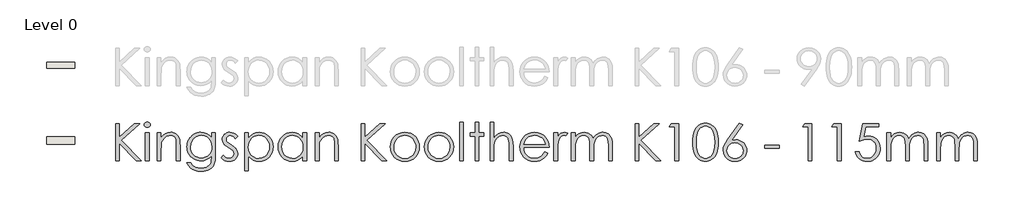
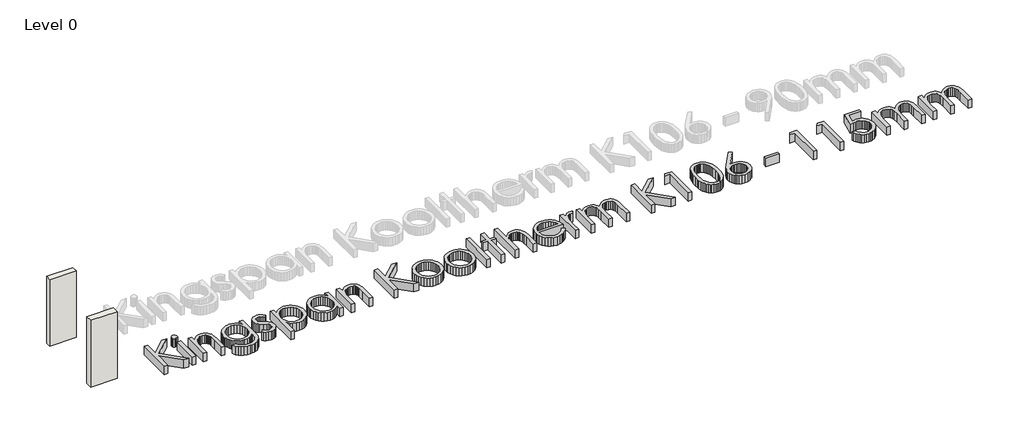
# One storey, part 1 of 2: 2 walls, 1 proxy.
"""IFC4 building model written with IfcOpenShell, lengths in millimetres."""

from ifc_helpers import new_model, si_unit, origin, origin_with_axes, place, context, project, spatial, polyline, outline, extrude, element, save

model = new_model("IFC4")

# Units and contexts
model_context = context("Model", 3, world=origin())
ifc_project = project(units=[si_unit("LENGTHUNIT", "METRE", prefix="MILLI")], contexts=[model_context])

# Site, building, storey
site = spatial("IfcSite", under=ifc_project)
building = spatial("IfcBuilding", under=site)
storey = spatial("IfcBuildingStorey", under=building, Name="Level 0", Elevation=0.0)

# Proxy
placement = place(None, origin())
element("IfcBuildingElementProxy", 1, Name="600mm KI_CenturyGothic", ObjectType="600mm KI_CenturyGothic", at=placement, inside=storey, context=model_context, shape_type="SweptSolid", body=[
    extrude(outline(polyline([(-3852.2663848, 4700.8965983), (-3792.944575, 4700.8965983), (-3792.944575, 4481.683973), (-3555.1938841, 4700.8965983), (-3471.6181051, 4700.8965983), (-3760.9664119, 4433.9484541), (-3441.9572002, 4107.6785001), (-3520.8984627, 4107.6785001), (-3792.944575, 4385.9039675), (-3792.944575, 4107.6785001), (-3852.2663848, 4107.6785001), (-3852.2663848, 4700.8965983)])), origin_with_axes(), (0.0, 0.0, 1.0), 150.0),
    extrude(outline(polyline([(-3348.1854852, 4730.5575033), (-3329.145347, 4727.2747208), (-3313.1176445, 4717.4263735), (-3302.226531, 4702.9821307), (-3298.5961598, 4685.911662), (-3302.226531, 4669.0729191), (-3313.1176445, 4654.7059183), (-3329.145347, 4644.857571), (-3348.1854852, 4641.5747885), (-3366.9938975, 4644.857571), (-3382.9443581, 4654.7059183), (-3393.8354717, 4669.0729191), (-3397.4658428, 4685.911662), (-3393.8354717, 4702.9821307), (-3382.9443581, 4717.4263735), (-3366.9938975, 4727.2747208), (-3348.1854852, 4730.5575033)])), origin_with_axes(), (0.0, 0.0, 1.0), 150.0),
    extrude(outline(polyline([(-3377.6919062, 4552.5920738), (-3318.3700964, 4552.5920738), (-3318.3700964, 4107.6785001), (-3377.6919062, 4107.6785001), (-3377.6919062, 4552.5920738)])), origin_with_axes(), (0.0, 0.0, 1.0), 150.0),
    extrude(outline(polyline([(-3189.8395084, 4552.5920738), (-3130.5176986, 4552.5920738), (-3130.5176986, 4473.4963274), (-3096.9946967, 4513.0055796), (-3060.0730495, 4540.696815), (-3019.7141359, 4557.0334853), (-2975.879335, 4562.4790421), (-2953.4357238, 4560.9004099), (-2932.2955704, 4556.1645135), (-2912.4588747, 4548.2713528), (-2893.9256368, 4537.2209277), (-2877.212412, 4523.4960006), (-2862.835756, 4507.5793333), (-2841.0921499, 4469.1707787), (-2833.6238199, 4444.7912914), (-2828.2892984, 4414.4448643), (-2824.0216812, 4335.8511905), (-2824.0216812, 4107.6785001), (-2883.343491, 4107.6785001), (-2883.343491, 4320.8662542), (-2883.343491, 4423.907002), (-2884.7290183, 4444.7043943), (-2889.8125035, 4462.7596977), (-2898.2849788, 4478.0729123), (-2910.1464442, 4490.644038), (-2924.7403432, 4500.4441091), (-2941.4101193, 4507.4441599), (-2980.977303, 4513.0442006), (-3005.3471351, 4510.8862539), (-3028.4038541, 4504.4124138), (-3050.1474602, 4493.6226803), (-3070.5779533, 4478.5170534), (-3088.6622225, 4460.2348518), (-3103.3671568, 4439.915394), (-3114.6927562, 4417.55868), (-3122.6390208, 4393.1647099), (-3128.5480292, 4346.0857475), (-3130.5176986, 4271.5858965), (-3130.5176986, 4107.6785001), (-3189.8395084, 4107.6785001), (-3189.8395084, 4552.5920738)])), origin_with_axes(), (0.0, 0.0, 1.0), 150.0),
    extrude(outline(polyline([(-2319.7862977, 4552.5920738), (-2260.4644879, 4552.5920738), (-2260.4644879, 4201.604699), (-2264.5196897, 4121.3503235), (-2269.588692, 4090.5500999), (-2276.6852953, 4065.9678526), (-2289.9371156, 4037.3545415), (-2307.2924139, 4012.2267729), (-2328.7511904, 3990.5845469), (-2354.3134448, 3972.4278634), (-2383.3226209, 3958.0656902), (-2415.122162, 3947.8069951), (-2449.7120682, 3941.651778), (-2487.0923395, 3939.6000389), (-2541.0458345, 3943.6166198), (-2589.206184, 3955.6663624), (-2630.260275, 3974.4940853), (-2662.8949946, 3998.8446068), (-2690.2000204, 4032.1938144), (-2715.2650299, 4078.0175952), (-2655.94322, 4078.0175952), (-2642.4355358, 4056.848476), (-2627.0933555, 4038.6048954), (-2609.9166791, 4023.2868532), (-2590.9055067, 4010.8943494), (-2569.7894914, 4001.3308318), (-2546.2982864, 3994.4997477), (-2492.1903075, 3989.0348805), (-2438.5071593, 3994.3645743), (-2415.083541, 4001.0266916), (-2393.93856, 4010.3536559), (-2359.6624492, 4034.3952097), (-2336.8567664, 4063.8823202), (-2329.3884364, 4082.5217658), (-2324.0539149, 4106.2302137), (-2319.7862977, 4168.8541165), (-2319.7862977, 4191.5632468), (-2354.757586, 4155.7809182), (-2396.6420279, 4129.3834852), (-2443.392712, 4113.1047464), (-2492.9627269, 4107.6785001), (-2522.4063889, 4109.5757553), (-2550.9521133, 4115.2675207), (-2578.5999001, 4124.7537964), (-2605.3497494, 4138.0345825), (-2630.1540674, 4154.5257366), (-2651.9652601, 4173.6431168), (-2670.7833277, 4195.3867228), (-2686.6082702, 4219.7565549), (-2699.1456025, 4246.0719183), (-2708.1008399, 4273.6521184), (-2713.4739824, 4302.4971553), (-2715.2650299, 4332.607029), (-2713.3967404, 4362.8955247), (-2707.7918722, 4392.1219437), (-2698.4504251, 4420.286286), (-2685.3723991, 4447.3885517), (-2668.9971079, 4472.5742517), (-2649.7638648, 4494.9888971), (-2627.67267, 4514.632488), (-2602.7235235, 4531.5050242), (-2575.9833294, 4545.056157), (-2548.5189922, 4554.7355376), (-2520.3305117, 4560.543166), (-2491.4178881, 4562.4790421), (-2444.5320306, 4557.5355579), (-2400.8903346, 4542.7051055), (-2359.6045177, 4516.1338782), (-2319.7862977, 4475.9680694), (-2319.7862977, 4552.5920738)]), holes=[polyline([(-2484.1571458, 4513.0442006), (-2529.0154023, 4507.0193293), (-2570.5908765, 4488.9447153), (-2606.2187212, 4460.2300242), (-2633.2340897, 4422.2849212), (-2650.2659375, 4378.0059792), (-2655.94322, 4330.2897708), (-2653.0080263, 4294.3770964), (-2644.2024452, 4261.7182387), (-2629.5264766, 4232.3131977), (-2608.9801206, 4206.1619734), (-2583.7606272, 4184.703197), (-2555.0652466, 4169.3754996), (-2522.8939786, 4160.1788811), (-2487.2468234, 4157.1133416), (-2451.3244937, 4160.154743), (-2419.1001219, 4169.2789472), (-2390.573708, 4184.4859541), (-2365.7452519, 4205.7757637), (-2345.6382095, 4232.0187128), (-2331.2760363, 4262.0851379), (-2322.6587323, 4295.975039), (-2319.7862977, 4333.6884162), (-2325.0773706, 4382.3894593), (-2340.9505892, 4425.6063246), (-2366.4983608, 4461.8327944), (-2400.8130926, 4489.5626508), (-2440.9982119, 4507.1738131), (-2484.1571458, 4513.0442006)])]), origin_with_axes(), (0.0, 0.0, 1.0), 150.0),
    extrude(outline(polyline([(-1904.5336289, 4501.3034257), (-1940.9918246, 4463.609359), (-1962.9575012, 4485.2371022), (-1984.6721416, 4500.6854902), (-2006.1357456, 4509.954523), (-2027.3483133, 4513.0442006), (-2052.181597, 4508.3710632), (-2073.2300256, 4494.3516511), (-2087.5970264, 4474.1142629), (-2092.3860267, 4450.787197), (-2088.4466878, 4429.2366958), (-2076.628671, 4408.7675817), (-2052.0657341, 4386.599145), (-2010.2006027, 4360.877579), (-1958.3326401, 4328.0111336), (-1939.8428507, 4312.1861912), (-1926.315856, 4296.7667689), (-1909.9791857, 4264.0934284), (-1904.5336289, 4227.5579908), (-1906.9474396, 4201.4115941), (-1914.1888714, 4177.3507299), (-1926.2579245, 4155.375398), (-1943.1545989, 4135.4855985), (-1963.6719892, 4118.9944443), (-1986.6031901, 4107.2150485), (-2011.9482016, 4100.147411), (-2039.7070237, 4097.7915318), (-2077.4397114, 4101.6729393), (-2113.3958344, 4113.3171617), (-2145.4512394, 4131.7972958), (-2171.4817731, 4156.1864383), (-2135.7959969, 4196.6612148), (-2114.0041146, 4175.0334717), (-2091.5749863, 4159.5850837), (-2068.5086121, 4150.3160509), (-2044.8049918, 4147.2263733), (-2013.637869, 4152.8650349), (-1987.4914724, 4169.7810198), (-1969.7644472, 4194.3439566), (-1963.8554388, 4222.9234744), (-1967.7561567, 4246.7139919), (-1979.4583106, 4267.7237995), (-2005.0253927, 4289.4287846), (-2050.2119275, 4316.2317378), (-2099.762632, 4346.8967879), (-2117.441381, 4362.0555186), (-2130.3890611, 4377.0983864), (-2146.3781427, 4409.2310334), (-2151.7078365, 4445.689229), (-2149.5305794, 4469.7356104), (-2142.9988078, 4491.6674937), (-2132.1125219, 4511.4848789), (-2116.8717217, 4529.187766), (-2098.309518, 4543.7526993), (-2077.4590218, 4554.1562231), (-2054.3202332, 4560.3983373), (-2028.8931521, 4562.4790421), (-1997.9481, 4558.6555661), (-1966.9064954, 4547.185138), (-1935.7683384, 4528.0677579), (-1904.5336289, 4501.3034257)])), origin_with_axes(), (0.0, 0.0, 1.0), 150.0),
    extrude(outline(polyline([(-1795.7769776, 4552.5920738), (-1736.4551678, 4552.5920738), (-1736.4551678, 4471.4880369), (-1700.9238754, 4511.7310876), (-1660.4490989, 4540.0788795), (-1614.9922173, 4556.8790014), (-1564.5146096, 4562.4790421), (-1520.0618732, 4558.2403906), (-1478.9305402, 4545.5244363), (-1441.1206107, 4524.331179), (-1406.6320845, 4494.6606189), (-1377.9077381, 4459.0231189), (-1357.3903478, 4419.929042), (-1345.0799137, 4377.3783884), (-1340.9764356, 4331.371158), (-1345.0412927, 4284.4708176), (-1357.235864, 4241.2491246), (-1377.5601494, 4201.706079), (-1406.014149, 4165.8416808), (-1440.2130179, 4136.0697406), (-1477.7719111, 4114.8040691), (-1518.6908288, 4102.0446661), (-1562.9697708, 4097.7915318), (-1612.6170277, 4103.256399), (-1658.0545988, 4119.6510008), (-1699.3211052, 4146.8980951), (-1736.4551678, 4184.92044), (-1736.4551678, 3949.4870072), (-1795.7769776, 3949.4870072), (-1795.7769776, 4552.5920738)]), holes=[polyline([(-1568.5311905, 4513.0442006), (-1602.5852307, 4509.7469353), (-1633.8392507, 4499.8551393), (-1662.2932503, 4483.3688128), (-1687.9472295, 4460.2879556), (-1709.1694525, 4432.3022353), (-1724.3281832, 4401.1013192), (-1733.4234216, 4366.6852074), (-1736.4551678, 4329.0538998), (-1731.048232, 4280.1983728), (-1714.8274246, 4236.5180558), (-1688.5265441, 4199.6736505), (-1652.8793888, 4171.3258586), (-1611.4390881, 4153.2512446), (-1567.7587711, 4147.2263733), (-1525.0632888, 4153.2898656), (-1485.0326535, 4171.4803424), (-1450.2544701, 4200.5812433), (-1423.3163435, 4239.3760076), (-1406.05277, 4284.0411593), (-1400.2982454, 4330.7532225), (-1405.9948385, 4377.6970114), (-1423.0846177, 4422.1304373), (-1449.8103289, 4460.4810605), (-1484.414718, 4489.1764411), (-1524.7157001, 4507.0772607), (-1568.5311905, 4513.0442006)])]), origin_with_axes(), (0.0, 0.0, 1.0), 150.0),
    extrude(outline(polyline([(-807.0801472, 4552.5920738), (-807.0801472, 4107.6785001), (-866.401957, 4107.6785001), (-866.401957, 4183.5300851), (-903.4780882, 4145.6815345), (-944.8797679, 4118.9558233), (-990.4525125, 4103.0826047), (-1040.0418379, 4097.7915318), (-1084.3159523, 4102.0446661), (-1125.2203871, 4114.8040691), (-1162.7551422, 4136.0697406), (-1196.9202178, 4165.8416808), (-1225.340424, 4201.706079), (-1245.6405713, 4241.2491246), (-1257.8206597, 4284.4708176), (-1261.8806892, 4331.371158), (-1257.7820388, 4377.3783884), (-1245.4860875, 4419.929042), (-1224.9928353, 4459.0231189), (-1196.3022822, 4494.6606189), (-1161.8475494, 4524.331179), (-1124.061758, 4545.5244363), (-1082.9449079, 4558.2403906), (-1038.4969991, 4562.4790421), (-987.7490446, 4556.8790014), (-942.0990581, 4540.0788795), (-921.2051134, 4527.3918909), (-901.6242816, 4511.7310876), (-866.401957, 4471.4880369), (-866.401957, 4552.5920738), (-807.0801472, 4552.5920738)]), holes=[polyline([(-1034.3259343, 4513.0442006), (-1078.1414247, 4507.0772607), (-1118.4424068, 4489.1764411), (-1153.0467959, 4460.4810605), (-1179.7725071, 4422.1304373), (-1196.8622863, 4377.6970114), (-1202.5588794, 4330.7532225), (-1196.8043548, 4284.0411593), (-1179.5407813, 4239.3760076), (-1152.6026548, 4200.5812433), (-1117.8244713, 4171.4803424), (-1077.6779731, 4153.2898656), (-1034.6349021, 4147.2263733), (-991.0125165, 4153.2512446), (-949.7460102, 4171.3258586), (-914.2726493, 4199.6736505), (-888.0297002, 4236.5180558), (-871.8088928, 4280.1983728), (-866.401957, 4329.0538998), (-869.4337032, 4366.6852074), (-878.5289416, 4401.1013192), (-893.6876723, 4432.3022353), (-914.9098953, 4460.2879556), (-940.5638746, 4483.3688128), (-969.0178742, 4499.8551393), (-1000.2718941, 4509.7469353), (-1034.3259343, 4513.0442006)])]), origin_with_axes(), (0.0, 0.0, 1.0), 150.0),
    extrude(outline(polyline([(-668.662591, 4552.5920738), (-609.3407811, 4552.5920738), (-609.3407811, 4473.4963274), (-575.8177792, 4513.0055796), (-538.896132, 4540.696815), (-498.5372184, 4557.0334853), (-454.7024175, 4562.4790421), (-432.2588064, 4560.9004099), (-411.1186529, 4556.1645135), (-391.2819572, 4548.2713528), (-372.7487193, 4537.2209277), (-356.0354946, 4523.4960006), (-341.6588385, 4507.5793333), (-319.9152324, 4469.1707787), (-312.4469024, 4444.7912914), (-307.1123809, 4414.4448643), (-302.8447637, 4335.8511905), (-302.8447637, 4107.6785001), (-362.1665735, 4107.6785001), (-362.1665735, 4320.8662542), (-362.1665735, 4423.907002), (-363.5521008, 4444.7043943), (-368.635586, 4462.7596977), (-377.1080613, 4478.0729123), (-388.9695267, 4490.644038), (-403.5634257, 4500.4441091), (-420.2332018, 4507.4441599), (-459.8003855, 4513.0442006), (-484.1702176, 4510.8862539), (-507.2269366, 4504.4124138), (-528.9705427, 4493.6226803), (-549.4010358, 4478.5170534), (-567.485305, 4460.2348518), (-582.1902393, 4439.915394), (-593.5158387, 4417.55868), (-601.4621033, 4393.1647099), (-607.3711117, 4346.0857475), (-609.3407811, 4271.5858965), (-609.3407811, 4107.6785001), (-668.662591, 4107.6785001), (-668.662591, 4552.5920738)])), origin_with_axes(), (0.0, 0.0, 1.0), 150.0),
    extrude(outline(polyline([(62.9730635, 4700.8965983), (122.2948734, 4700.8965983), (122.2948734, 4481.683973), (360.0455643, 4700.8965983), (443.6213432, 4700.8965983), (154.2730365, 4433.9484541), (473.2822481, 4107.6785001), (394.3409856, 4107.6785001), (122.2948734, 4385.9039675), (122.2948734, 4107.6785001), (62.9730635, 4107.6785001), (62.9730635, 4700.8965983)])), origin_with_axes(), (0.0, 0.0, 1.0), 150.0),
    extrude(outline(polyline([(760.1588128, 4562.4790421), (809.4681362, 4557.8541809), (854.3553585, 4543.9795975), (894.8204798, 4520.8552917), (930.8635, 4488.4812637), (957.7630055, 4453.2492839), (976.9769381, 4414.908316), (988.5052976, 4373.45836), (992.3480841, 4328.8994159), (988.283227, 4284.0846079), (976.0886558, 4242.1760279), (955.7643703, 4203.1736759), (927.3103707, 4167.0775519), (892.4742558, 4136.7649181), (853.0036246, 4115.1130368), (808.8984769, 4102.1219081), (760.1588128, 4097.7915318), (711.2839754, 4102.1219081), (667.0822753, 4115.1130368), (627.5537126, 4136.7649181), (592.6982872, 4167.0775519), (564.2442876, 4203.1736759), (543.9200022, 4242.1760279), (531.7254309, 4284.0846079), (527.6605738, 4328.8994159), (531.5033603, 4373.2652551), (543.0317198, 4414.5993482), (562.2456524, 4452.9016951), (589.145158, 4488.1722959), (625.2074886, 4520.6814974), (665.7305413, 4543.9023555), (710.7143161, 4557.8348705), (760.1588128, 4562.4790421)]), holes=[polyline([(760.004329, 4513.0442006), (725.7282181, 4509.6696933), (693.9624704, 4499.5461716), (664.7070856, 4482.6736353), (637.962064, 4459.0520846), (615.6584538, 4430.6415336), (599.7273037, 4399.4019965), (590.1686137, 4365.3334734), (586.9823836, 4328.4359643), (592.7948396, 4280.7004454), (610.2322075, 4236.3635719), (637.5758543, 4198.5729529), (673.1071466, 4170.4761972), (714.6439998, 4153.0388293), (760.004329, 4147.2263733), (805.3646581, 4153.0388293), (846.9015113, 4170.4761972), (882.4328037, 4198.5729529), (909.7764504, 4236.3635719), (927.2138183, 4280.7004454), (933.0262743, 4328.4359643), (929.8255614, 4365.3334734), (920.2234227, 4399.4019965), (904.2198583, 4430.6415336), (881.8148681, 4459.0520846), (854.9974321, 4482.6736353), (825.7565303, 4499.5461716), (794.0921625, 4509.6696933), (760.004329, 4513.0442006)])]), origin_with_axes(), (0.0, 0.0, 1.0), 150.0),
    extrude(outline(polyline([(1303.9420695, 4562.4790421), (1353.2513929, 4557.8541809), (1398.1386152, 4543.9795975), (1438.6037365, 4520.8552917), (1474.6467567, 4488.4812637), (1501.5462622, 4453.2492839), (1520.7601948, 4414.908316), (1532.2885543, 4373.45836), (1536.1313408, 4328.8994159), (1532.0664837, 4284.0846079), (1519.8719125, 4242.1760279), (1499.547627, 4203.1736759), (1471.0936274, 4167.0775519), (1436.2575126, 4136.7649181), (1396.7868813, 4115.1130368), (1352.6817336, 4102.1219081), (1303.9420695, 4097.7915318), (1255.0672321, 4102.1219081), (1210.865532, 4115.1130368), (1171.3369693, 4136.7649181), (1136.4815439, 4167.0775519), (1108.0275443, 4203.1736759), (1087.7032589, 4242.1760279), (1075.5086876, 4284.0846079), (1071.4438305, 4328.8994159), (1075.286617, 4373.2652551), (1086.8149766, 4414.5993482), (1106.0289091, 4452.9016951), (1132.9284147, 4488.1722959), (1168.9907453, 4520.6814974), (1209.5137981, 4543.9023555), (1254.4975728, 4557.8348705), (1303.9420695, 4562.4790421)]), holes=[polyline([(1303.7875857, 4513.0442006), (1269.5114748, 4509.6696933), (1237.7457271, 4499.5461716), (1208.4903423, 4482.6736353), (1181.7453207, 4459.0520846), (1159.4417105, 4430.6415336), (1143.5105604, 4399.4019965), (1133.9518704, 4365.3334734), (1130.7656404, 4328.4359643), (1136.5780963, 4280.7004454), (1154.0154643, 4236.3635719), (1181.359111, 4198.5729529), (1216.8904033, 4170.4761972), (1258.4272565, 4153.0388293), (1303.7875857, 4147.2263733), (1349.1479149, 4153.0388293), (1390.684768, 4170.4761972), (1426.2160604, 4198.5729529), (1453.5597071, 4236.3635719), (1470.997075, 4280.7004454), (1476.809531, 4328.4359643), (1473.6088181, 4365.3334734), (1464.0066795, 4399.4019965), (1448.003115, 4430.6415336), (1425.5981249, 4459.0520846), (1398.7806889, 4482.6736353), (1369.539787, 4499.5461716), (1337.8754193, 4509.6696933), (1303.7875857, 4513.0442006)])]), origin_with_axes(), (0.0, 0.0, 1.0), 150.0),
    extrude(outline(polyline([(1635.0010238, 4720.6705349), (1694.3228337, 4720.6705349), (1694.3228337, 4107.6785001), (1635.0010238, 4107.6785001), (1635.0010238, 4720.6705349)])), origin_with_axes(), (0.0, 0.0, 1.0), 150.0),
    extrude(outline(polyline([(1882.1752314, 4720.6705349), (1941.4970413, 4720.6705349), (1941.4970413, 4552.5920738), (2020.5927877, 4552.5920738), (2020.5927877, 4503.1572323), (1941.4970413, 4503.1572323), (1941.4970413, 4107.6785001), (1882.1752314, 4107.6785001), (1882.1752314, 4503.1572323), (1803.079485, 4503.1572323), (1803.079485, 4552.5920738), (1882.1752314, 4552.5920738), (1882.1752314, 4720.6705349)])), origin_with_axes(), (0.0, 0.0, 1.0), 150.0),
    extrude(outline(polyline([(2119.4624707, 4720.6705349), (2178.7842806, 4720.6705349), (2178.7842806, 4471.9514886), (2212.5583188, 4511.6538456), (2249.6151394, 4539.9243956), (2289.9161216, 4556.8403805), (2333.4226442, 4562.4790421), (2355.8662553, 4560.9004099), (2377.0064088, 4556.1645135), (2396.8431044, 4548.2713528), (2415.3763424, 4537.2209277), (2432.0895671, 4523.5104834), (2446.4662232, 4507.6372648), (2468.2098293, 4469.4025045), (2475.6781593, 4445.0954316), (2481.0126808, 4414.7345216), (2485.280298, 4335.8511905), (2485.280298, 4107.6785001), (2425.9584882, 4107.6785001), (2425.9584882, 4320.8662542), (2424.5681332, 4385.247411), (2420.3970685, 4423.907002), (2406.879729, 4462.7596977), (2397.1665551, 4478.0729123), (2385.4837117, 4490.644038), (2371.840854, 4500.4441091), (2356.2476374, 4507.4441599), (2319.2101273, 4513.0442006), (2296.3416854, 4510.8862539), (2274.6994594, 4504.4124138), (2254.2834492, 4493.6226803), (2235.0936547, 4478.5170534), (2218.1052556, 4460.2348518), (2204.2934312, 4439.915394), (2193.6581816, 4417.55868), (2186.1995068, 4393.1647099), (2180.6380871, 4346.3174733), (2178.7842806, 4271.5858965), (2178.7842806, 4107.6785001), (2119.4624707, 4107.6785001), (2119.4624707, 4720.6705349)])), origin_with_axes(), (0.0, 0.0, 1.0), 150.0),
    extrude(outline(polyline([(2991.0605203, 4255.9830247), (3038.950523, 4230.8021523), (3013.3255094, 4188.9177104), (2984.0315038, 4155.9547125), (2950.952643, 4130.8703926), (2913.9730643, 4112.6219843), (2872.4941426, 4101.4991449), (2825.9172528, 4097.7915318), (2774.4258447, 4102.2232881), (2728.8627554, 4115.518557), (2689.227985, 4137.6773385), (2655.5215335, 4168.6996326), (2628.6220279, 4205.3026569), (2609.4080954, 4244.2036288), (2597.8797358, 4285.4025485), (2594.0369493, 4328.8994159), (2597.3197318, 4369.7797126), (2607.1680791, 4408.381372), (2623.5819913, 4444.7043943), (2646.5614684, 4478.7487793), (2682.7493173, 4515.3807692), (2724.5758277, 4541.5464764), (2772.0409998, 4557.2459007), (2825.1448334, 4562.4790421), (2879.7935059, 4557.1107273), (2928.6490329, 4541.0057828), (2971.7114143, 4514.1642087), (3008.9806503, 4476.5860049), (3030.4539096, 4444.414737), (3045.9022976, 4408.458614), (3055.3258143, 4368.7176359), (3058.7244596, 4325.1918028), (2653.3587591, 4325.1918028), (2657.095338, 4287.9370497), (2666.6057518, 4254.1871496), (2681.8900007, 4223.9421025), (2702.9480845, 4197.2019084), (2728.3124066, 4175.3376118), (2756.5153699, 4159.7202571), (2787.5569744, 4150.3498443), (2821.4372203, 4147.2263733), (2854.9602222, 4150.238809), (2887.5563208, 4159.2761159), (2917.2944677, 4173.3148385), (2942.2436143, 4191.331521), (2965.725164, 4217.4972281), (2991.0605203, 4255.9830247)]), holes=[polyline([(2999.4026498, 4374.6266443), (2984.9777175, 4417.1483322), (2965.1844704, 4450.1692615), (2939.0766947, 4475.6977226), (2905.7081767, 4495.742006), (2867.7630738, 4508.7186519), (2827.9255433, 4513.0442006), (2795.503239, 4510.3310774), (2765.4368139, 4502.191708), (2737.726268, 4488.6260923), (2712.3716012, 4469.6342304), (2695.8321708, 4451.820308), (2681.4362043, 4430.0477362), (2669.1837016, 4404.316515), (2659.0746627, 4374.6266443), (2999.4026498, 4374.6266443)])]), origin_with_axes(), (0.0, 0.0, 1.0), 150.0),
    extrude(outline(polyline([(3137.820206, 4552.5920738), (3197.1420159, 4552.5920738), (3197.1420159, 4488.1722959), (3222.6897875, 4521.2125357), (3249.589293, 4544.3271862), (3277.7632906, 4557.9410781), (3307.1345382, 4562.4790421), (3330.4616041, 4558.694187), (3355.3335087, 4547.3396219), (3325.8270877, 4505.3200066), (3297.2475699, 4513.0442006), (3270.8308265, 4507.0965712), (3245.3409863, 4489.2536831), (3223.2884125, 4458.8976007), (3207.183468, 4415.4103886), (3199.6523789, 4357.2858288), (3197.1420159, 4259.8451217), (3197.1420159, 4107.6785001), (3137.820206, 4107.6785001), (3137.820206, 4552.5920738)])), origin_with_axes(), (0.0, 0.0, 1.0), 150.0),
    extrude(outline(polyline([(3414.6553185, 4552.5920738), (3473.9771284, 4552.5920738), (3473.9771284, 4476.4315211), (3503.5607913, 4512.9283377), (3533.9168737, 4538.0705891), (3577.3268439, 4556.3769288), (3622.8995884, 4562.4790421), (3653.7384329, 4559.331433), (3682.9165757, 4549.8886059), (3708.6767627, 4535.2126373), (3729.2617397, 4516.365604), (3746.0425511, 4490.9336953), (3760.3902414, 4456.5031006), (3775.16759, 4480.9018983), (3791.6925376, 4502.191708), (3809.965084, 4520.3725296), (3829.9852293, 4535.4443631), (3851.2798666, 4547.2720352), (3873.375889, 4555.7203723), (3896.2732965, 4560.7893747), (3919.9720892, 4562.4790421), (3962.3006723, 4556.6665861), (3981.4952943, 4549.4010161), (3999.3768034, 4539.2292182), (4015.4914031, 4526.46016), (4029.385297, 4511.4028093), (4050.5109676, 4474.4232306), (4057.8103309, 4451.0478886), (4063.0241619, 4422.4780261), (4067.1952266, 4349.7547397), (4067.1952266, 4107.6785001), (4007.8734168, 4107.6785001), (4007.8734168, 4353.3078689), (4005.4209852, 4414.4255538), (3998.0636904, 4452.8727294), (3984.7587663, 4477.3391139), (3964.4634466, 4496.5144254), (3938.3942919, 4508.9117568), (3907.7678627, 4513.0442006), (3888.1194443, 4511.4945341), (3869.3399976, 4506.8455349), (3834.3880198, 4488.2495379), (3805.6540182, 4459.3031209), (3785.8800816, 4422.0531954), (3779.1889985, 4397.8957787), (3774.4096535, 4366.8252084), (3770.5861775, 4283.9446069), (3770.5861775, 4107.6785001), (3711.2643677, 4107.6785001), (3711.2643677, 4338.0139648), (3708.850557, 4406.469634), (3701.6091252, 4448.7016647), (3688.3621325, 4474.9446137), (3667.9316394, 4495.4330383), (3641.6114484, 4508.64141), (3610.6953619, 4513.0442006), (3573.7544042, 4507.0000188), (3539.2465676, 4488.8674734), (3510.2808401, 4460.500371), (3489.9662099, 4423.7525181), (3477.9743988, 4371.9231764), (3473.9771284, 4298.3116077), (3473.9771284, 4107.6785001), (3414.6553185, 4107.6785001), (3414.6553185, 4552.5920738)])), origin_with_axes(), (0.0, 0.0, 1.0), 150.0),
    extrude(outline(polyline([(4433.0130538, 4700.8965983), (4492.3348637, 4700.8965983), (4492.3348637, 4481.683973), (4730.0855546, 4700.8965983), (4813.6613335, 4700.8965983), (4524.3130268, 4433.9484541), (4843.3222385, 4107.6785001), (4764.3809759, 4107.6785001), (4492.3348637, 4385.9039675), (4492.3348637, 4107.6785001), (4433.0130538, 4107.6785001), (4433.0130538, 4700.8965983)])), origin_with_axes(), (0.0, 0.0, 1.0), 150.0),
    extrude(outline(polyline([(5010.6282802, 4700.8965983), (5125.1008351, 4700.8965983), (5125.1008351, 4107.6785001), (5065.7790253, 4107.6785001), (5065.7790253, 4651.4617568), (4976.7963106, 4651.4617568), (5010.6282802, 4700.8965983)])), origin_with_axes(), (0.0, 0.0, 1.0), 150.0),
    extrude(outline(polyline([(5352.5011061, 4404.1330653), (5354.0797383, 4458.5644948), (5358.8156347, 4506.4593252), (5366.7087954, 4547.8175564), (5377.7592204, 4582.6391884), (5391.6869077, 4612.2807828), (5408.2118552, 4638.0989012), (5427.334063, 4660.0935436), (5449.053531, 4678.26471), (5472.747496, 4692.4917098), (5497.793195, 4702.6538525), (5524.190628, 4708.7511381), (5551.9397949, 4710.7835666), (5580.1427582, 4708.7366552), (5606.974677, 4702.595921), (5632.4355515, 4692.361364), (5656.5253815, 4678.0329841), (5678.7083011, 4659.6156091), (5698.4484443, 4637.1140665), (5715.7458112, 4610.5283563), (5730.6004018, 4579.8584786), (5742.5294539, 4544.3416691), (5751.0502054, 4503.2151637), (5756.1626563, 4456.4789625), (5757.8668066, 4404.1330653), (5756.1867944, 4351.9464797), (5751.1467578, 4305.3792452), (5742.7466968, 4264.4313618), (5730.9866115, 4229.1028296), (5716.2768496, 4198.5777805), (5699.0277589, 4172.0403465), (5679.2393394, 4149.4905277), (5656.9115912, 4130.928324), (5632.6527944, 4116.4309774), (5607.0712295, 4106.0757299), (5580.1668963, 4099.8625813), (5551.9397949, 4097.7915318), (5524.2147661, 4099.7998222), (5497.8897474, 4105.8246936), (5472.964739, 4115.8661457), (5449.4397407, 4129.9241788), (5427.8651013, 4147.9601718), (5408.7911698, 4169.9355036), (5392.2179461, 4195.8501745), (5378.1454301, 4225.7041842), (5366.9260384, 4260.7237487), (5358.9121871, 4302.1350837), (5354.1038764, 4349.9381893), (5352.5011061, 4404.1330653)]), holes=[polyline([(5411.8229159, 4404.2875492), (5416.206396, 4315.961391), (5421.6857461, 4280.9804475), (5429.3568363, 4252.1209277), (5439.1713903, 4227.8814414), (5451.0811319, 4206.7605985), (5465.0860611, 4188.7583989), (5481.1861779, 4173.8748426), (5516.4857445, 4153.8884906), (5534.8886366, 4148.8919027), (5553.7936014, 4147.2263733), (5572.7854634, 4148.8581093), (5591.1400794, 4153.7533172), (5625.9375733, 4173.334149), (5641.694929, 4188.0101176), (5655.4439943, 4205.9302476), (5667.1847692, 4227.0945392), (5676.9172536, 4251.5029922), (5686.3793912, 4284.8618549), (5693.138061, 4321.4455687), (5698.5449967, 4404.2875492), (5693.7173755, 4485.8936587), (5687.682849, 4520.5849449), (5679.2345118, 4551.2017189), (5668.652366, 4577.864671), (5656.2164137, 4600.6944918), (5641.9266548, 4619.6911814), (5625.7830894, 4634.8547397), (5590.7152487, 4654.7252288), (5572.4861509, 4659.692851), (5553.7936014, 4661.3487251), (5534.7776014, 4659.692851), (5516.3505711, 4654.7252288), (5481.2634199, 4634.8547397), (5465.3177869, 4620.0435978), (5451.3900996, 4602.1041572), (5439.480358, 4581.0364181), (5429.5885621, 4556.8403805), (5421.8160919, 4527.9856883), (5416.2643275, 4492.9419857), (5411.8229159, 4404.2875492)])]), origin_with_axes(), (0.0, 0.0, 1.0), 150.0),
    extrude(outline(polyline([(6094.0237289, 4710.7835666), (6146.3937641, 4685.1392426), (5970.2821412, 4439.0464222), (6032.8481125, 4443.8354224), (6068.9683747, 4440.7650553), (6102.2499955, 4431.553954), (6132.6929751, 4416.2021184), (6160.2973133, 4394.7095487), (6183.2092037, 4368.7272912), (6199.5748397, 4339.9063923), (6209.3942213, 4308.2468522), (6212.6673485, 4273.7486708), (6211.1369926, 4249.6974618), (6206.5459248, 4226.8241924), (6198.8941451, 4205.1288625), (6188.1816536, 4184.6114722), (6174.6594865, 4165.7065074), (6158.5786802, 4148.8484541), (6118.7411497, 4121.2730815), (6072.048397, 4103.6619192), (6021.8797571, 4097.7915318), (5973.5069922, 4103.6426087), (5928.8032195, 4121.1958396), (5908.5175551, 4134.0807607), (5890.5298383, 4149.3312162), (5874.8400693, 4166.9472061), (5861.4482479, 4186.9287304), (5843.0839767, 4230.7635313), (5836.962553, 4277.6107678), (5840.786029, 4314.5517256), (5852.2564571, 4353.3851108), (5873.5752325, 4397.2006012), (5906.9437505, 4449.0878744), (6094.0237289, 4710.7835666)]), holes=[polyline([(6020.1804344, 4394.4005809), (5993.903692, 4392.1412542), (5970.2242098, 4385.363274), (5949.1419878, 4374.0666402), (5930.6570261, 4358.2513531), (5915.6189859, 4339.2208701), (5904.8775286, 4318.2786492), (5898.4326543, 4295.4246902), (5896.2843628, 4270.6589932), (5898.6354144, 4246.0284697), (5905.688569, 4223.2710631), (5917.4438267, 4202.3867736), (5933.9011875, 4183.3756012), (5953.689607, 4167.560314), (5975.4380407, 4156.2636803), (5999.1464886, 4149.4857001), (6024.8149508, 4147.2263733), (6050.4834129, 4149.4857001), (6074.1918608, 4156.2636803), (6095.9402945, 4167.560314), (6115.728714, 4183.3756012), (6132.1860748, 4202.3867736), (6143.9413325, 4223.2710631), (6150.9944872, 4246.0284697), (6153.3455387, 4270.6589932), (6150.90759, 4295.4246902), (6143.5937438, 4318.2786492), (6131.4040002, 4339.2208701), (6114.3383591, 4358.2513531), (6093.8257964, 4374.0666402), (6071.2952881, 4385.363274), (6046.7468341, 4392.1412542), (6020.1804344, 4394.4005809)])]), origin_with_axes(), (0.0, 0.0, 1.0), 150.0),
    extrude(outline(polyline([(6499.3894294, 4354.8527077), (6726.7897004, 4354.8527077), (6726.7897004, 4305.4178662), (6499.3894294, 4305.4178662), (6499.3894294, 4354.8527077)])), origin_with_axes(), (0.0, 0.0, 1.0), 150.0),
    extrude(outline(polyline([(7136.3264656, 4700.8965983), (7250.7990205, 4700.8965983), (7250.7990205, 4107.6785001), (7191.4772106, 4107.6785001), (7191.4772106, 4651.4617568), (7102.4944959, 4651.4617568), (7136.3264656, 4700.8965983)])), origin_with_axes(), (0.0, 0.0, 1.0), 150.0),
    extrude(outline(polyline([(7601.0139758, 4700.8965983), (7715.4865307, 4700.8965983), (7715.4865307, 4107.6785001), (7656.1647209, 4107.6785001), (7656.1647209, 4651.4617568), (7567.1820062, 4651.4617568), (7601.0139758, 4700.8965983)])), origin_with_axes(), (0.0, 0.0, 1.0), 150.0),
    extrude(outline(polyline([(8318.5915973, 4700.8965983), (8318.5915973, 4651.4617568), (8111.2742307, 4651.4617568), (8076.8243255, 4490.4895541), (8114.4025292, 4499.9903127), (8148.041394, 4503.1572323), (8187.6278882, 4499.7344488), (8223.5840112, 4489.4660984), (8255.9097631, 4472.3521811), (8284.6051437, 4448.3926969), (8308.1253144, 4419.0842083), (8324.9254363, 4385.923278), (8335.0055095, 4348.909906), (8338.3655339, 4308.0440921), (8336.6420731, 4279.0783647), (8331.4716908, 4251.3485083), (8322.8543868, 4224.8545229), (8310.7901614, 4199.5964086), (8295.7859145, 4176.3948609), (8278.3485466, 4156.0705754), (8258.4780576, 4138.6235523), (8236.1744474, 4124.0537914), (8211.7418563, 4112.5640528), (8185.4844244, 4104.3570967), (8157.4021516, 4099.432923), (8127.495038, 4097.7915318), (8092.1616782, 4100.5481035), (8059.6959253, 4108.8178187), (8030.0977795, 4122.6006774), (8003.3672407, 4141.8966795), (7980.6146617, 4165.5665064), (7962.9503956, 4192.4708396), (7950.3744423, 4222.609679), (7942.8868017, 4255.9830247), (8002.2086116, 4255.9830247), (8011.7866121, 4223.2517526), (8026.3080968, 4197.3563923), (8046.1399649, 4177.0417621), (8071.6491155, 4161.0526806), (8100.6727744, 4150.6829501), (8131.0481673, 4147.2263733), (8160.3373453, 4150.1519118), (8187.4927148, 4158.9285272), (8212.5142757, 4173.5562196), (8235.402028, 4194.0349889), (8254.49527, 4218.9068935), (8268.1333001, 4246.7139919), (8276.3161181, 4277.456284), (8279.0437241, 4311.1337697), (8276.5816372, 4341.3208854), (8269.1953767, 4368.5438415), (8256.8849426, 4392.8026383), (8239.6503347, 4414.0972756), (8218.2929384, 4431.4332635), (8193.6141386, 4443.816112), (8165.6139354, 4451.245821), (8134.2923287, 4453.7223907), (8105.5872928, 4451.8685842), (8074.0049947, 4446.3071645), (8002.2086116, 4424.0614858), (8061.5304214, 4700.8965983), (8318.5915973, 4700.8965983)])), origin_with_axes(), (0.0, 0.0, 1.0), 150.0),
    extrude(outline(polyline([(8447.1221852, 4552.5920738), (8506.4439951, 4552.5920738), (8506.4439951, 4476.4315211), (8536.027658, 4512.9283377), (8566.3837404, 4538.0705891), (8609.7937106, 4556.3769288), (8655.3664551, 4562.4790421), (8686.2052996, 4559.331433), (8715.3834424, 4549.8886059), (8741.1436294, 4535.2126373), (8761.7286063, 4516.365604), (8778.5094178, 4490.9336953), (8792.8571081, 4456.5031006), (8807.6344567, 4480.9018983), (8824.1594042, 4502.191708), (8842.4319506, 4520.3725296), (8862.4520959, 4535.4443631), (8883.7467332, 4547.2720352), (8905.8427557, 4555.7203723), (8928.7401632, 4560.7893747), (8952.4389559, 4562.4790421), (8994.7675389, 4556.6665861), (9013.962161, 4549.4010161), (9031.8436701, 4539.2292182), (9047.9582698, 4526.46016), (9061.8521637, 4511.4028093), (9082.9778343, 4474.4232306), (9090.2771976, 4451.0478886), (9095.4910285, 4422.4780261), (9099.6620933, 4349.7547397), (9099.6620933, 4107.6785001), (9040.3402835, 4107.6785001), (9040.3402835, 4353.3078689), (9037.8878519, 4414.4255538), (9030.5305571, 4452.8727294), (9017.225633, 4477.3391139), (8996.9303133, 4496.5144254), (8970.8611585, 4508.9117568), (8940.2347294, 4513.0442006), (8920.5863109, 4511.4945341), (8901.8068643, 4506.8455349), (8866.8548865, 4488.2495379), (8838.1208849, 4459.3031209), (8818.3469483, 4422.0531954), (8811.6558652, 4397.8957787), (8806.8765202, 4366.8252084), (8803.0530442, 4283.9446069), (8803.0530442, 4107.6785001), (8743.7312343, 4107.6785001), (8743.7312343, 4338.0139648), (8741.3174237, 4406.469634), (8734.0759919, 4448.7016647), (8720.8289992, 4474.9446137), (8700.3985061, 4495.4330383), (8674.0783151, 4508.64141), (8643.1622286, 4513.0442006), (8606.2212709, 4507.0000188), (8571.7134342, 4488.8674734), (8542.7477068, 4460.500371), (8522.4330766, 4423.7525181), (8510.4412654, 4371.9231764), (8506.4439951, 4298.3116077), (8506.4439951, 4107.6785001), (8447.1221852, 4107.6785001), (8447.1221852, 4552.5920738)])), origin_with_axes(), (0.0, 0.0, 1.0), 150.0),
    extrude(outline(polyline([(9238.0796495, 4552.5920738), (9297.4014594, 4552.5920738), (9297.4014594, 4476.4315211), (9326.9851223, 4512.9283377), (9357.3412047, 4538.0705891), (9400.7511749, 4556.3769288), (9446.3239194, 4562.4790421), (9477.1627639, 4559.331433), (9506.3409067, 4549.8886059), (9532.1010937, 4535.2126373), (9552.6860706, 4516.365604), (9569.4668821, 4490.9336953), (9583.8145724, 4456.5031006), (9598.591921, 4480.9018983), (9615.1168685, 4502.191708), (9633.389415, 4520.3725296), (9653.4095602, 4535.4443631), (9674.7041975, 4547.2720352), (9696.80022, 4555.7203723), (9719.6976275, 4560.7893747), (9743.3964202, 4562.4790421), (9785.7250032, 4556.6665861), (9804.9196253, 4549.4010161), (9822.8011344, 4539.2292182), (9838.9157341, 4526.46016), (9852.809628, 4511.4028093), (9873.9352986, 4474.4232306), (9881.2346619, 4451.0478886), (9886.4484928, 4422.4780261), (9890.6195576, 4349.7547397), (9890.6195576, 4107.6785001), (9831.2977478, 4107.6785001), (9831.2977478, 4353.3078689), (9828.8453162, 4414.4255538), (9821.4880214, 4452.8727294), (9808.1830973, 4477.3391139), (9787.8877776, 4496.5144254), (9761.8186229, 4508.9117568), (9731.1921937, 4513.0442006), (9711.5437752, 4511.4945341), (9692.7643286, 4506.8455349), (9657.8123508, 4488.2495379), (9629.0783492, 4459.3031209), (9609.3044126, 4422.0531954), (9602.6133295, 4397.8957787), (9597.8339845, 4366.8252084), (9594.0105085, 4283.9446069), (9594.0105085, 4107.6785001), (9534.6886987, 4107.6785001), (9534.6886987, 4338.0139648), (9532.274888, 4406.469634), (9525.0334562, 4448.7016647), (9511.7864635, 4474.9446137), (9491.3559704, 4495.4330383), (9465.0357794, 4508.64141), (9434.1196929, 4513.0442006), (9397.1787352, 4507.0000188), (9362.6708986, 4488.8674734), (9333.7051711, 4460.500371), (9313.3905409, 4423.7525181), (9301.3987298, 4371.9231764), (9297.4014594, 4298.3116077), (9297.4014594, 4107.6785001), (9238.0796495, 4107.6785001), (9238.0796495, 4552.5920738)])), origin_with_axes(), (0.0, 0.0, 1.0), 150.0),
])

# Walls
element("IfcWall", 2, ObjectType="KingspanInsulation_Insulation_Kooltherm-K106-CavityBoard-90", at=placement, inside=storey, context=model_context, shape_type="SweptSolid", body=[
    extrude(outline(polyline([(-4504.0681366, 5586.5564226), (-4954.0681366, 5586.5564226), (-4954.0681366, 5676.5564226), (-4504.0681366, 5676.5564226), (-4504.0681366, 5586.5564226)])), origin_with_axes(), (0.0, 0.0, 1.0), 1200.0),
])
element("IfcWall", 3, ObjectType="KingspanInsulation_Insulation_Kooltherm-K106-CavityBoard-115", at=placement, inside=storey, context=model_context, shape_type="SweptSolid", body=[
    extrude(outline(polyline([(-4504.0681366, 4374.0564226), (-4954.0681366, 4374.0564226), (-4954.0681366, 4489.0564226), (-4504.0681366, 4489.0564226), (-4504.0681366, 4374.0564226)])), origin_with_axes(), (0.0, 0.0, 1.0), 1200.0),
])

save(model, "model.ifc")
